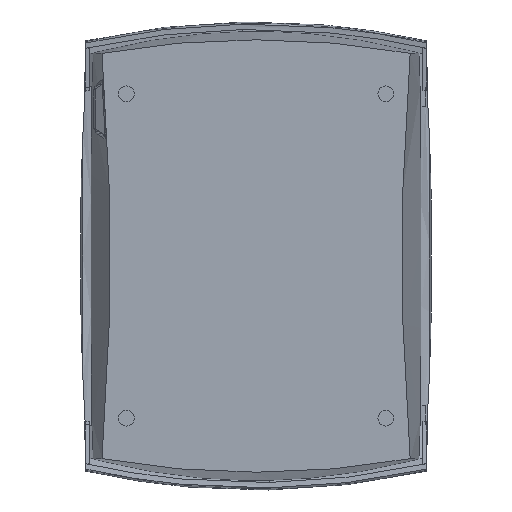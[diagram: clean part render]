
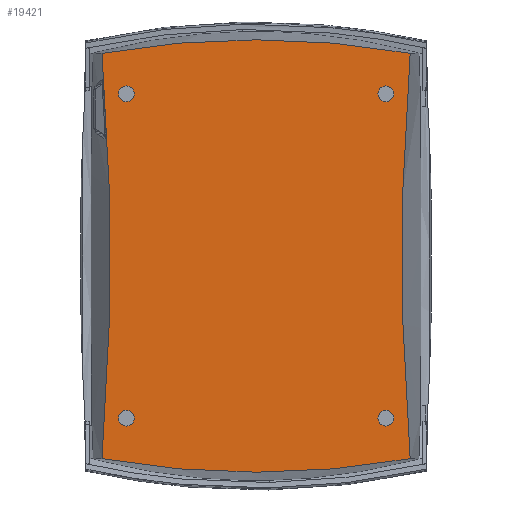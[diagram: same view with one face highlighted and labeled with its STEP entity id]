
A CAD part, front view. The second image highlights one B-rep face of the part: STEP entity #19421.
In plain terms, the highlighted planar face has unit normal (0, -1, 0) as drawn and (0, 0, -1) by its records, which use the part's own axes.
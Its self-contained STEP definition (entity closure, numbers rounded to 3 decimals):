
#449 = DIRECTION ( 'NONE',  ( -1., 0., 0. ) ) ;
#495 = DIRECTION ( 'NONE',  ( 0., 0., -1. ) ) ;
#499 = CARTESIAN_POINT ( 'NONE',  ( 60., -48., 0. ) ) ;
#585 = CARTESIAN_POINT ( 'NONE',  ( 57.1, -48., 0. ) ) ;
#1481 = CARTESIAN_POINT ( 'NONE',  ( -60., 48., 0. ) ) ;
#1872 = EDGE_CURVE ( 'NONE', #23607, #3295, #8956, .T. ) ;
#2102 = AXIS2_PLACEMENT_3D ( 'NONE', #17836, #6671, #19715 ) ;
#2763 = EDGE_CURVE ( 'NONE', #3103, #18229, #23519, .T. ) ;
#3086 = CARTESIAN_POINT ( 'NONE',  ( -75., 57., 0. ) ) ;
#3103 = VERTEX_POINT ( 'NONE', #12884 ) ;
#3295 = VERTEX_POINT ( 'NONE', #585 ) ;
#3347 = CARTESIAN_POINT ( 'NONE',  ( 0., 993., 0. ) ) ;
#3374 = DIRECTION ( 'NONE',  ( -1., 0., 0. ) ) ;
#4252 = DIRECTION ( 'NONE',  ( 0., 0., -1. ) ) ;
#4352 = VERTEX_POINT ( 'NONE', #16453 ) ;
#4365 = CARTESIAN_POINT ( 'NONE',  ( 62.9, -48., 0. ) ) ;
#4732 = EDGE_CURVE ( 'NONE', #23809, #15295, #6240, .T. ) ;
#5201 = ORIENTED_EDGE ( 'NONE', *, *, #21985, .F. ) ;
#5263 = DIRECTION ( 'NONE',  ( 1., 0., 0. ) ) ;
#5269 = DIRECTION ( 'NONE',  ( 0., 0., 1. ) ) ;
#5427 = AXIS2_PLACEMENT_3D ( 'NONE', #499, #495, #449 ) ;
#5785 = DIRECTION ( 'NONE',  ( 0., 0., -1. ) ) ;
#5834 = CARTESIAN_POINT ( 'NONE',  ( -60., -48., 0. ) ) ;
#5851 = CIRCLE ( 'NONE', #21475, 327.4 ) ;
#5984 = AXIS2_PLACEMENT_3D ( 'NONE', #7236, #20302, #9106 ) ;
#6240 = CIRCLE ( 'NONE', #14240, 327.4 ) ;
#6502 = CARTESIAN_POINT ( 'NONE',  ( -247.4, 0., 0. ) ) ;
#6671 = DIRECTION ( 'NONE',  ( 0., 0., -1. ) ) ;
#6691 = VERTEX_POINT ( 'NONE', #11921 ) ;
#6704 = EDGE_CURVE ( 'NONE', #3295, #23607, #22199, .T. ) ;
#6990 = AXIS2_PLACEMENT_3D ( 'NONE', #15371, #4252, #17277 ) ;
#7236 = CARTESIAN_POINT ( 'NONE',  ( -60., 48., 0. ) ) ;
#7248 = FACE_BOUND ( 'NONE', #14567, .T. ) ;
#7686 = DIRECTION ( 'NONE',  ( -1., 0., 0. ) ) ;
#8260 = CIRCLE ( 'NONE', #18283, 2.9 ) ;
#8365 = DIRECTION ( 'NONE',  ( 1., 0., 0. ) ) ;
#8926 = CARTESIAN_POINT ( 'NONE',  ( -123.7, 496.5, 0. ) ) ;
#8951 = DIRECTION ( 'NONE',  ( 0., 0., -1. ) ) ;
#8956 = CIRCLE ( 'NONE', #5427, 2.9 ) ;
#9106 = DIRECTION ( 'NONE',  ( -1., 0., 0. ) ) ;
#9274 = CARTESIAN_POINT ( 'NONE',  ( 75., -57., 0. ) ) ;
#9696 = EDGE_CURVE ( 'NONE', #21318, #4352, #8260, .T. ) ;
#9839 = AXIS2_PLACEMENT_3D ( 'NONE', #1481, #14524, #3374 ) ;
#9939 = EDGE_LOOP ( 'NONE', ( #19271, #10743 ) ) ;
#10128 = DIRECTION ( 'NONE',  ( 0., 0., -1. ) ) ;
#10269 = ORIENTED_EDGE ( 'NONE', *, *, #19255, .F. ) ;
#10666 = DIRECTION ( 'NONE',  ( 0., 0., 1. ) ) ;
#10743 = ORIENTED_EDGE ( 'NONE', *, *, #10992, .F. ) ;
#10992 = EDGE_CURVE ( 'NONE', #14285, #21842, #22543, .T. ) ;
#11418 = EDGE_LOOP ( 'NONE', ( #5201, #12446 ) ) ;
#11607 = FACE_BOUND ( 'NONE', #11418, .T. ) ;
#11689 = CARTESIAN_POINT ( 'NONE',  ( 57.1, 48., 0. ) ) ;
#11698 = AXIS2_PLACEMENT_3D ( 'NONE', #5834, #18873, #7686 ) ;
#11921 = CARTESIAN_POINT ( 'NONE',  ( 75., 57., 0. ) ) ;
#12290 = EDGE_LOOP ( 'NONE', ( #14590, #22693, #10269, #22589 ) ) ;
#12446 = ORIENTED_EDGE ( 'NONE', *, *, #2763, .F. ) ;
#12884 = CARTESIAN_POINT ( 'NONE',  ( -57.1, -48., 0. ) ) ;
#13822 = AXIS2_PLACEMENT_3D ( 'NONE', #3347, #16378, #5263 ) ;
#14240 = AXIS2_PLACEMENT_3D ( 'NONE', #21877, #10666, #23739 ) ;
#14285 = VERTEX_POINT ( 'NONE', #21728 ) ;
#14471 = ORIENTED_EDGE ( 'NONE', *, *, #6704, .F. ) ;
#14524 = DIRECTION ( 'NONE',  ( 0., 0., -1. ) ) ;
#14567 = EDGE_LOOP ( 'NONE', ( #14471, #20900 ) ) ;
#14590 = ORIENTED_EDGE ( 'NONE', *, *, #15521, .F. ) ;
#14597 = AXIS2_PLACEMENT_3D ( 'NONE', #21335, #10128, #23191 ) ;
#15097 = VERTEX_POINT ( 'NONE', #9274 ) ;
#15295 = VERTEX_POINT ( 'NONE', #15504 ) ;
#15303 = CIRCLE ( 'NONE', #9839, 2.9 ) ;
#15371 = CARTESIAN_POINT ( 'NONE',  ( 60., 48., 0. ) ) ;
#15471 = EDGE_LOOP ( 'NONE', ( #20376, #16903 ) ) ;
#15504 = CARTESIAN_POINT ( 'NONE',  ( -75., -57., 0. ) ) ;
#15521 = EDGE_CURVE ( 'NONE', #6691, #23809, #19638, .T. ) ;
#15962 = FACE_OUTER_BOUND ( 'NONE', #12290, .T. ) ;
#16378 = DIRECTION ( 'NONE',  ( 0., 0., -1. ) ) ;
#16453 = CARTESIAN_POINT ( 'NONE',  ( 62.9, 48., 0. ) ) ;
#16903 = ORIENTED_EDGE ( 'NONE', *, *, #20281, .F. ) ;
#17009 = EDGE_CURVE ( 'NONE', #15097, #6691, #5851, .T. ) ;
#17277 = DIRECTION ( 'NONE',  ( -1., 0., 0. ) ) ;
#17836 = CARTESIAN_POINT ( 'NONE',  ( 0., -993., 0. ) ) ;
#18229 = VERTEX_POINT ( 'NONE', #20529 ) ;
#18283 = AXIS2_PLACEMENT_3D ( 'NONE', #20145, #8951, #22012 ) ;
#18295 = CARTESIAN_POINT ( 'NONE',  ( -62.9, 48., 0. ) ) ;
#18301 = DIRECTION ( 'NONE',  ( 1., 0., 0. ) ) ;
#18873 = DIRECTION ( 'NONE',  ( 0., 0., -1. ) ) ;
#19255 = EDGE_CURVE ( 'NONE', #15295, #15097, #20108, .T. ) ;
#19271 = ORIENTED_EDGE ( 'NONE', *, *, #22852, .F. ) ;
#19421 = ADVANCED_FACE ( 'NONE', ( #11607, #7248, #21567, #20994, #15962 ), #23854, .F. ) ;
#19481 = CIRCLE ( 'NONE', #6990, 2.9 ) ;
#19552 = DIRECTION ( 'NONE',  ( 0., 0., 1. ) ) ;
#19638 = CIRCLE ( 'NONE', #13822, 939. ) ;
#19655 = AXIS2_PLACEMENT_3D ( 'NONE', #8926, #5269, #18301 ) ;
#19715 = DIRECTION ( 'NONE',  ( 1., 0., 0. ) ) ;
#19971 = DIRECTION ( 'NONE',  ( -1., 0., 0. ) ) ;
#20108 = CIRCLE ( 'NONE', #2102, 939. ) ;
#20145 = CARTESIAN_POINT ( 'NONE',  ( 60., 48., 0. ) ) ;
#20281 = EDGE_CURVE ( 'NONE', #4352, #21318, #19481, .T. ) ;
#20302 = DIRECTION ( 'NONE',  ( 0., 0., -1. ) ) ;
#20376 = ORIENTED_EDGE ( 'NONE', *, *, #9696, .F. ) ;
#20529 = CARTESIAN_POINT ( 'NONE',  ( -62.9, -48., 0. ) ) ;
#20900 = ORIENTED_EDGE ( 'NONE', *, *, #1872, .F. ) ;
#20994 = FACE_BOUND ( 'NONE', #9939, .T. ) ;
#21318 = VERTEX_POINT ( 'NONE', #11689 ) ;
#21335 = CARTESIAN_POINT ( 'NONE',  ( 60., -48., 0. ) ) ;
#21475 = AXIS2_PLACEMENT_3D ( 'NONE', #6502, #19552, #8365 ) ;
#21567 = FACE_BOUND ( 'NONE', #15471, .T. ) ;
#21728 = CARTESIAN_POINT ( 'NONE',  ( -57.1, 48., 0. ) ) ;
#21842 = VERTEX_POINT ( 'NONE', #18295 ) ;
#21877 = CARTESIAN_POINT ( 'NONE',  ( 247.4, 0., 0. ) ) ;
#21985 = EDGE_CURVE ( 'NONE', #18229, #3103, #23762, .T. ) ;
#22012 = DIRECTION ( 'NONE',  ( -1., 0., 0. ) ) ;
#22199 = CIRCLE ( 'NONE', #14597, 2.9 ) ;
#22543 = CIRCLE ( 'NONE', #5984, 2.9 ) ;
#22589 = ORIENTED_EDGE ( 'NONE', *, *, #4732, .F. ) ;
#22693 = ORIENTED_EDGE ( 'NONE', *, *, #17009, .F. ) ;
#22852 = EDGE_CURVE ( 'NONE', #21842, #14285, #15303, .T. ) ;
#23191 = DIRECTION ( 'NONE',  ( -1., 0., 0. ) ) ;
#23519 = CIRCLE ( 'NONE', #24020, 2.9 ) ;
#23607 = VERTEX_POINT ( 'NONE', #4365 ) ;
#23739 = DIRECTION ( 'NONE',  ( 1., 0., 0. ) ) ;
#23762 = CIRCLE ( 'NONE', #11698, 2.9 ) ;
#23809 = VERTEX_POINT ( 'NONE', #3086 ) ;
#23854 = PLANE ( 'NONE',  #19655 ) ;
#24020 = AXIS2_PLACEMENT_3D ( 'NONE', #24203, #5785, #19971 ) ;
#24203 = CARTESIAN_POINT ( 'NONE',  ( -60., -48., 0. ) ) ;
